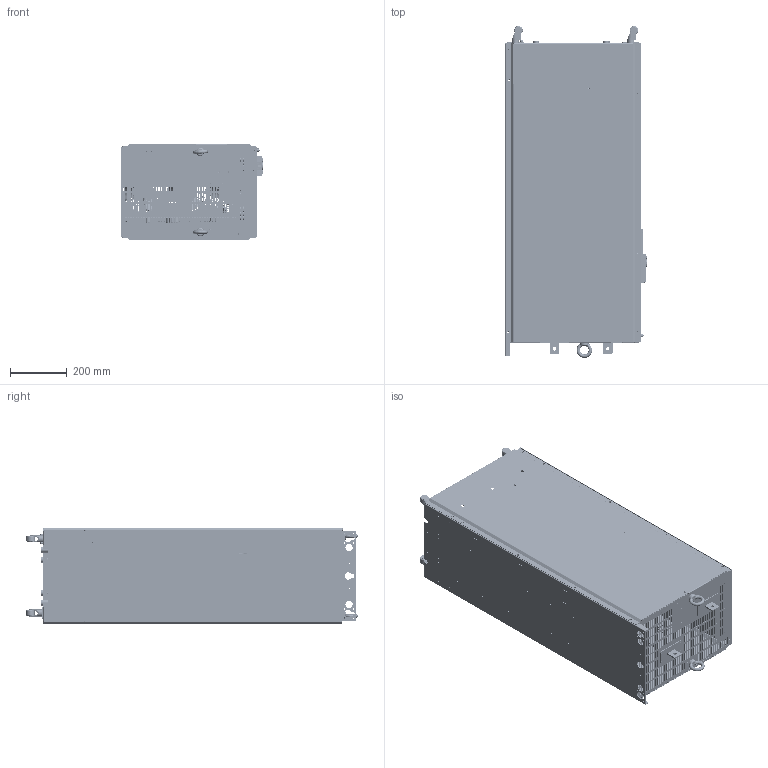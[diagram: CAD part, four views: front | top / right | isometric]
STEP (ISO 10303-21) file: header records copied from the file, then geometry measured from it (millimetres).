
FILE_DESCRIPTION (( 'STEP AP214' ), '1' );
FILE_NAME ('H120-220-280kW.STEP', '2024-12-10T07:17:48', ( '微软用户' ), ( '微软中国' ), 'SwSTEP 2.0', 'SolidWorks 2018', '' );
FILE_SCHEMA (( 'AUTOMOTIVE_DESIGN' ));
Length unit declared in the file: millimetre
Products named in the file (234): 16渀齬釱-FL.H224284DPRT20210902_17; m4x14瓣謂揤穩蹟譫翐20210902; 菁啣-led-2-20190506; 菁啣-2019032220190328-FL.H224284DPRT20210902; H224254-TP-25; 吸收电容板20210902; 賑寢沭2; LED囀褲俋諶-20210902-FL.H224284DPRT20210902; fengzhao-172x152x512020030120210902_6; 諉華鍼踢璃-FL.H314454DASM-0320210902; H224254-TP-03; 按钮模具壳组件-模具-20210902-电路板20190328-FL.H224284DASM20210902; H224254-TP-17; 16渀齬釱-FL.H224284DPRT20210902_6; 风扇安装板支座装配体-20210902-FL.H224284DASM20210902; 寡蝶-led-2-20190506; H224254-tp-21; 橈埽赽-詢20-FL.H224284DPRT20210902; 萇蕨ん蚾饜菁啣.H224284DASM20210902; LED偌瑩諷秶啣-LCD-2-20210902-FL.H224284DPRT20210902; fengzhao-172x152x512020030120210902_5; m10揤穩櫅譫-FL.H314454DPRT-0320210902; m6x16坋趼攫芛蹟隊20210902; SPTB1-02-3.5-4-萇繚啣-2pin20190328-FL.H224284DPRT20210902; 16渀齬釱-FL.H224284DPRT20210902_2; 阨儒芛-耀撿-led-2-20190506; 菁啣-2019032220190328-FL.H224284DPRT20210902_2; 蛌遙啣蚾饜极-FL.H224284dasm20210902; m10揤穩櫅譫-20210910; fengzhao-172x152x512020030120210902_7; 諉華鍼踢璃-FL.H314454DPRT-0320210902; 吸收电容板绝缘片20210902; GB9074_8-88_M3X6_ZI_1-耀撿-20210902-萇繚啣20190328-FL.H224284dprt20210902; H224254-tp-15; 16渀齬釱-FL.H224284DPRT20210902_4; 瑞圮假蚾啣盓釱-FL.H224284DPRT20210902; 俋褲1-led-2-20190506; H224254-tp-22; 8PIN齬釱-FL.H224284DPRT20210902; 萇蕨ん蚾饜菁啣.H224284DPRT20210902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
Assembly tree (537 placements, depth 7):
  H120-220-280kW
    儂眊蚾軞蚾饜极20210902--FL.H224284dasm20210902
      儂眊翋极20210902-FL.H224284DASM20210902
        儂眊0120210902-FL.H224284DASM20210902
          耜猾啣-FL.H224284dasm20210902
            儂眊01-120210902-FL.H224284DPRT20210902
            m5揤穩櫅譫-FL.H224284DPRT20210902  x8
            M6揤穩蹟譫20210902  x32
            M6揤穩蹟譫  x3
          电源安装凹版装配体20210902
            萇埭假蚾側唳20210902
            m4x10籵謂揤穩蹟譫翐  x16
        儂眊0320210902-FL.H224284DASM20210902
          菁啣-FL.H224284dasm20210902
            儂眊03-120210902-FL.H224284DPRT20210902
            M6揤穩蹟譫20210902  x12
          加强板装配体20210902
            樓Ч啣20210902
            M6揤穩蹟譫20210902  x8
            諉華鍼踢璃-FL.H314454DASM-0320210902
              諉華鍼踢璃-FL.H314454DPRT-0320210902
              m10揤穩櫅譫-FL.H314454DPRT-0320210902  x4
        儂眊0420210902-FL.H224284DASM20210902
          假蚾啣-FL.H224284dasm20210902
            儂眊04-120191225-FL.H224284DPRT20210902
            m5揤穩櫅譫-FL.H224284DPRT20210902  x6
            M4压铆螺母-FL.H224284DPRT20210902_M4压铆螺母  x19
            m8揤穩櫅譫-FL.H224284DPRT20210902  x6
            m4x12瓣謂揤穩蹟譫翐  x4
            M6X8腔蹟隊揤穩-FL.H224284DPRT20210902  x3
          猾敕啣-FL.H224284DPRT20210902
          M6揤穩蹟譫
        堤瑞啣蚾饜极-FL.H224284DASM20210902
          堤瑞啣-20210902-FL.H224284DPRT20210902
          M4压铆螺母-FL.H224284DPRT20210902_M4压铆螺母  x8
          M6揤穩蹟譫20210902  x2
          裂遠菜啣蚾饜极20210902  x2
            裂遠菜啣20210902
            m12揤穩櫅譫
        儂眊05郪璃20210902-FL.H224284DASM20210902
          儂眊05-120210902-FL.H224284DPRT20210902
          风扇安装板支座装配体-20210902-FL.H224284DASM20210902
            瑞圮假蚾啣盓釱-FL.H224284DPRT20210902
          M6X8腔蹟隊揤穩-FL.H224284DPRT20210902  x5
          m4x14瓣謂揤穩蹟譫翐20210902  x7
          M6X16腔蹟譫翐20210902
          M6揤穩蹟譫
          M8X10腔揤穩蹟隊  x3
      耜裔啣蚾饜极-FL.H224284dasm20210902
        耜裔啣220210902-FL.H224284DPRT20210902
        M4X8腔揤穩蹟隊20210902  x6
      耜裔啣蚾饜极-20220215
        耜裔啣120210902-FL.H224284DPRT20210902
        M4X8腔揤穩蹟隊  x4
      醱裔蚾饜极-FL.H224284dasm20210902
        醱裔120210902-FL.H224284DPRT20210902
        菜輸2-FL.H224284DPRT20210902  x2
        M4X8腔揤穩蹟隊  x4
      风扇安装支架组件20210902-FL.H224284DASM20210902
        瑞圮假蚾盓殤20210902-FL.H224284DPRT20210902
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Bounding box: 499.7 x 1171.95 x 339 mm (x, y, z)
Volume: 15647038.8 mm3; surface area: 13966717.4 mm2
Topology: 533 solids, 536 shells, 37096 faces, 99063 edges, 64838 vertices
Faces by surface type: plane 24603, cylinder 8373, bspline 2053, cone 1779, torus 232, sphere 56
Entity records: 908144 total; most frequent: CARTESIAN_POINT 188560, ORIENTED_EDGE 105246, DIRECTION 98875, EDGE_CURVE 52626, LINE 36145, VECTOR 36145, VERTEX_POINT 34540, AXIS2_PLACEMENT_3D 31365
